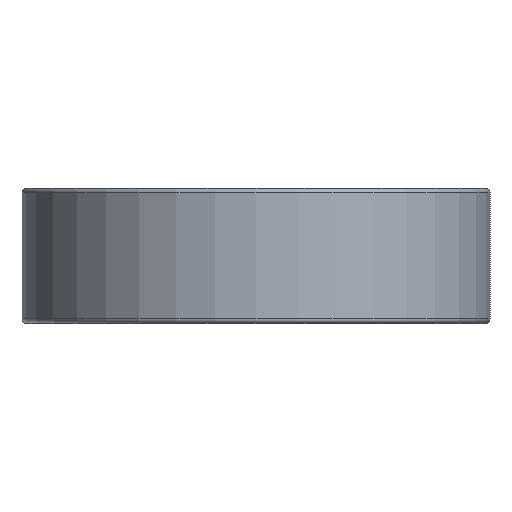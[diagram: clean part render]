
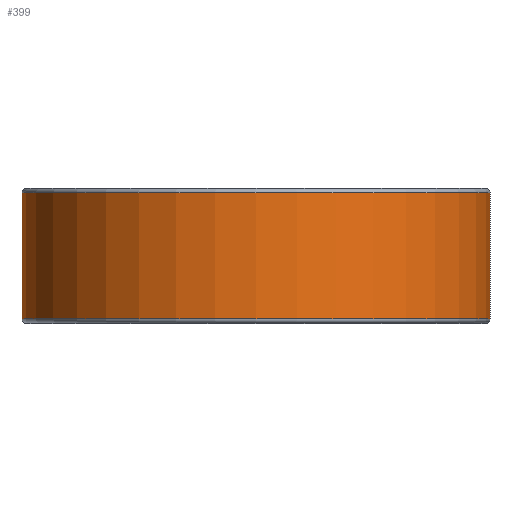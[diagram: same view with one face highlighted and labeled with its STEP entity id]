
A CAD part, front view. The second image highlights one B-rep face of the part: STEP entity #399.
In plain terms, the highlighted cylindrical face has radius 26 mm (diameter 52 mm), a full revolution.
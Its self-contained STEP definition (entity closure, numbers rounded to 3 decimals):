
#375=CYLINDRICAL_SURFACE('',#1452,26.);
#399=ADVANCED_FACE('',(#673,#674),#375,.T.);
#673=FACE_BOUND('',#739,.T.);
#674=FACE_BOUND('',#740,.T.);
#739=EDGE_LOOP('',(#857));
#740=EDGE_LOOP('',(#858));
#857=ORIENTED_EDGE('',*,*,#1245,.T.);
#858=ORIENTED_EDGE('',*,*,#1246,.T.);
#1141=VERTEX_POINT('',#1971);
#1142=VERTEX_POINT('',#1973);
#1245=EDGE_CURVE('',#1141,#1141,#1381,.T.);
#1246=EDGE_CURVE('',#1142,#1142,#1382,.T.);
#1381=CIRCLE('',#1450,26.);
#1382=CIRCLE('',#1451,26.);
#1450=AXIS2_PLACEMENT_3D('',#1970,#1611,#1612);
#1451=AXIS2_PLACEMENT_3D('',#1972,#1613,#1614);
#1452=AXIS2_PLACEMENT_3D('',#1974,#1615,#1616);
#1611=DIRECTION('',(0.,0.,-1.));
#1612=DIRECTION('',(1.,0.,0.));
#1613=DIRECTION('',(0.,0.,1.));
#1614=DIRECTION('',(1.,0.,0.));
#1615=DIRECTION('',(0.,0.,-1.));
#1616=DIRECTION('',(-1.,0.,0.));
#1970=CARTESIAN_POINT('',(0.,0.,14.5));
#1971=CARTESIAN_POINT('',(26.,0.,14.5));
#1972=CARTESIAN_POINT('',(0.,0.,0.5));
#1973=CARTESIAN_POINT('',(26.,0.,0.5));
#1974=CARTESIAN_POINT('',(0.,0.,15.));
